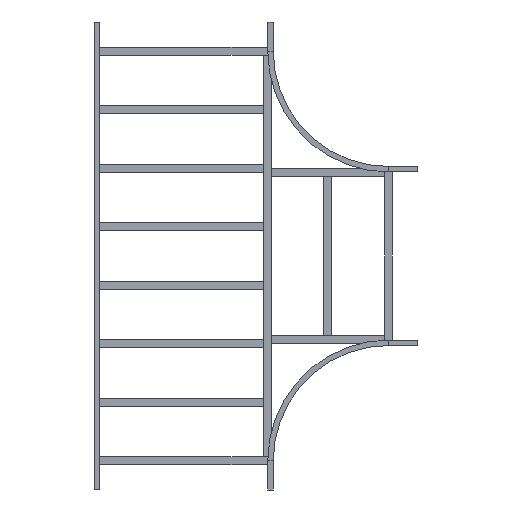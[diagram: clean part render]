
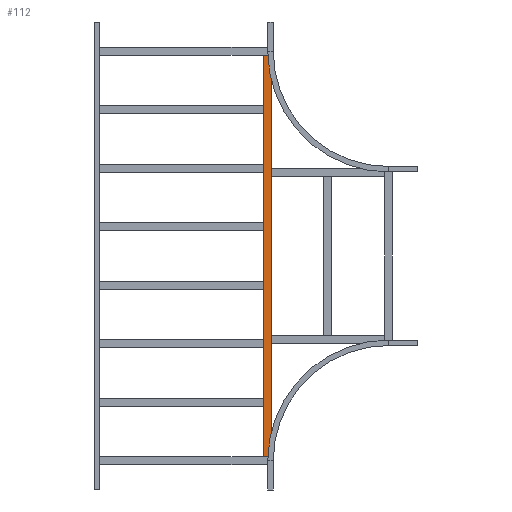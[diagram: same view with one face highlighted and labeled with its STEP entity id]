
A CAD part, front view. The second image highlights one B-rep face of the part: STEP entity #112.
In plain terms, the highlighted planar face has unit normal (0, -1, 0).
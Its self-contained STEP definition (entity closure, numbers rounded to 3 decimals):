
#57 = EDGE_LOOP ( 'NONE', ( #2125, #3378, #3066, #3278 ) ) ;
#82 = DIRECTION ( 'NONE',  ( -1., 0., 0. ) ) ;
#97 = DIRECTION ( 'NONE',  ( -1., 0., 0. ) ) ;
#112 = ADVANCED_FACE ( 'NONE', ( #2970 ), #1261, .F. ) ;
#143 = LINE ( 'NONE', #2168, #890 ) ;
#298 = VECTOR ( 'NONE', #82, 1000. ) ;
#308 = AXIS2_PLACEMENT_3D ( 'NONE', #2093, #936, #2633 ) ;
#390 = VERTEX_POINT ( 'NONE', #674 ) ;
#629 = LINE ( 'NONE', #2876, #2727 ) ;
#674 = CARTESIAN_POINT ( 'NONE',  ( -1029.75, 0., -20.25 ) ) ;
#831 = VECTOR ( 'NONE', #1775, 1000. ) ;
#890 = VECTOR ( 'NONE', #1897, 1000. ) ;
#914 = CARTESIAN_POINT ( 'NONE',  ( 1029.75, 0., 20.25 ) ) ;
#936 = DIRECTION ( 'NONE',  ( 0., 1., 0. ) ) ;
#1176 = EDGE_CURVE ( 'NONE', #3390, #390, #143, .T. ) ;
#1177 = LINE ( 'NONE', #914, #831 ) ;
#1190 = VERTEX_POINT ( 'NONE', #3540 ) ;
#1261 = PLANE ( 'NONE',  #308 ) ;
#1441 = EDGE_CURVE ( 'NONE', #1190, #3141, #1177, .T. ) ;
#1775 = DIRECTION ( 'NONE',  ( 0., 0., -1. ) ) ;
#1897 = DIRECTION ( 'NONE',  ( 0., 0., -1. ) ) ;
#2093 = CARTESIAN_POINT ( 'NONE',  ( 1029.75, 0., 20.25 ) ) ;
#2125 = ORIENTED_EDGE ( 'NONE', *, *, #1176, .T. ) ;
#2168 = CARTESIAN_POINT ( 'NONE',  ( -1029.75, 0., 20.25 ) ) ;
#2633 = DIRECTION ( 'NONE',  ( 0., 0., 1. ) ) ;
#2655 = LINE ( 'NONE', #3199, #298 ) ;
#2727 = VECTOR ( 'NONE', #97, 1000. ) ;
#2876 = CARTESIAN_POINT ( 'NONE',  ( 1029.75, 0., -20.25 ) ) ;
#2970 = FACE_OUTER_BOUND ( 'NONE', #57, .T. ) ;
#2972 = EDGE_CURVE ( 'NONE', #1190, #3390, #2655, .T. ) ;
#3033 = EDGE_CURVE ( 'NONE', #3141, #390, #629, .T. ) ;
#3066 = ORIENTED_EDGE ( 'NONE', *, *, #1441, .F. ) ;
#3141 = VERTEX_POINT ( 'NONE', #3533 ) ;
#3199 = CARTESIAN_POINT ( 'NONE',  ( 1029.75, 0., 20.25 ) ) ;
#3278 = ORIENTED_EDGE ( 'NONE', *, *, #2972, .T. ) ;
#3378 = ORIENTED_EDGE ( 'NONE', *, *, #3033, .F. ) ;
#3390 = VERTEX_POINT ( 'NONE', #3645 ) ;
#3533 = CARTESIAN_POINT ( 'NONE',  ( 1029.75, 0., -20.25 ) ) ;
#3540 = CARTESIAN_POINT ( 'NONE',  ( 1029.75, 0., 20.25 ) ) ;
#3645 = CARTESIAN_POINT ( 'NONE',  ( -1029.75, 0., 20.25 ) ) ;
